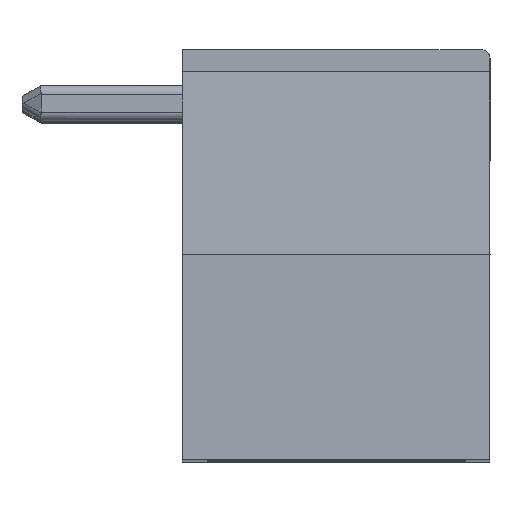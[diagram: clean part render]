
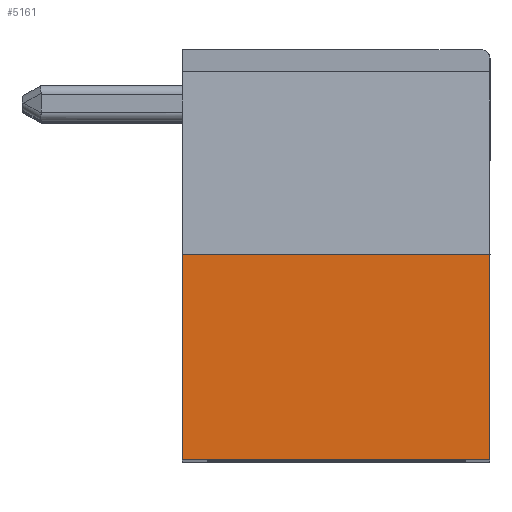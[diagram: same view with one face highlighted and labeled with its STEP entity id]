
A CAD part, top view. The second image highlights one B-rep face of the part: STEP entity #5161.
In plain terms, the highlighted planar face has unit normal (0, 0, 1).
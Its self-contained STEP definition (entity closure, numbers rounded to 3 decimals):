
#5152 = EDGE_CURVE ( 'NONE', #14123, #12958, #55030, .T. ) ;
#5161 = ADVANCED_FACE ( 'NONE', ( #55085 ), #55084, .T. ) ;
#5162 = EDGE_LOOP ( 'NONE', ( #5164, #5165, #5168, #5169 ) ) ;
#5164 = ORIENTED_EDGE ( 'NONE', *, *, #12956, .T. ) ;
#5165 = ORIENTED_EDGE ( 'NONE', *, *, #13148, .F. ) ;
#5168 = ORIENTED_EDGE ( 'NONE', *, *, #14125, .F. ) ;
#5169 = ORIENTED_EDGE ( 'NONE', *, *, #5152, .T. ) ;
#12950 = VERTEX_POINT ( 'NONE', #62285 ) ;
#12956 = EDGE_CURVE ( 'NONE', #12958, #12950, #62283, .T. ) ;
#12958 = VERTEX_POINT ( 'NONE', #62342 ) ;
#13143 = VERTEX_POINT ( 'NONE', #62511 ) ;
#13148 = EDGE_CURVE ( 'NONE', #13143, #12950, #62509, .T. ) ;
#14123 = VERTEX_POINT ( 'NONE', #64052 ) ;
#14125 = EDGE_CURVE ( 'NONE', #14123, #13143, #64199, .T. ) ;
#55030 = LINE ( 'NONE', #55088, #55087 ) ;
#55080 = DIRECTION ( 'NONE',  ( 1., 0., 0. ) ) ;
#55081 = DIRECTION ( 'NONE',  ( 0., 0., 1. ) ) ;
#55082 = CARTESIAN_POINT ( 'NONE',  ( 6.9, -4.6, 0. ) ) ;
#55083 = AXIS2_PLACEMENT_3D ( 'NONE', #55082, #55081, #55080 ) ;
#55084 = PLANE ( 'NONE',  #55083 ) ;
#55085 = FACE_OUTER_BOUND ( 'NONE', #5162, .T. ) ;
#55086 = DIRECTION ( 'NONE',  ( -1., 0., 0. ) ) ;
#55087 = VECTOR ( 'NONE', #55086, 1000. ) ;
#55088 = CARTESIAN_POINT ( 'NONE',  ( 6.9, -4.6, 0. ) ) ;
#62280 = DIRECTION ( 'NONE',  ( 0., -1., 0. ) ) ;
#62281 = VECTOR ( 'NONE', #62280, 1000. ) ;
#62282 = CARTESIAN_POINT ( 'NONE',  ( 0., -4.6, 0. ) ) ;
#62283 = LINE ( 'NONE', #62282, #62281 ) ;
#62285 = CARTESIAN_POINT ( 'NONE',  ( 0., -9.2, 0. ) ) ;
#62342 = CARTESIAN_POINT ( 'NONE',  ( 0., -4.6, 0. ) ) ;
#62506 = DIRECTION ( 'NONE',  ( -1., 0., 0. ) ) ;
#62507 = VECTOR ( 'NONE', #62506, 1000. ) ;
#62508 = CARTESIAN_POINT ( 'NONE',  ( 3.4, -9.2, 0. ) ) ;
#62509 = LINE ( 'NONE', #62508, #62507 ) ;
#62511 = CARTESIAN_POINT ( 'NONE',  ( 6.9, -9.2, 0. ) ) ;
#64052 = CARTESIAN_POINT ( 'NONE',  ( 6.9, -4.6, 0. ) ) ;
#64194 = DIRECTION ( 'NONE',  ( 0., -1., 0. ) ) ;
#64195 = VECTOR ( 'NONE', #64194, 1000. ) ;
#64197 = CARTESIAN_POINT ( 'NONE',  ( 6.9, 0., 0. ) ) ;
#64199 = LINE ( 'NONE', #64197, #64195 ) ;
